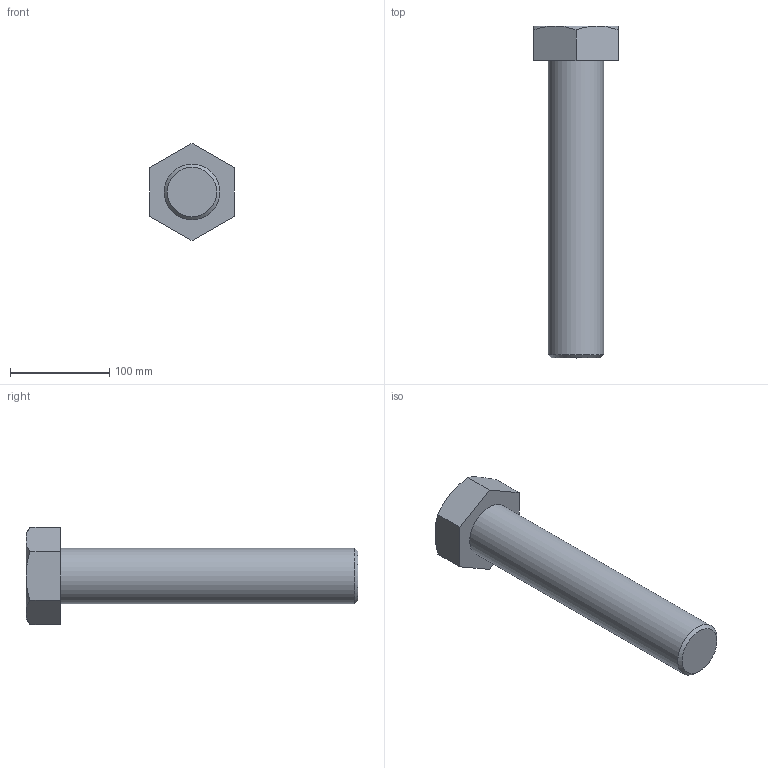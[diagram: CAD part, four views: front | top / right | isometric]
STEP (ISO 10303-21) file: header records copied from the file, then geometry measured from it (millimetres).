
FILE_DESCRIPTION(/* description */ (''),/* implementation_level */ '2;1');
FILE_NAME(/* name */ 'C:\Users\unitec\Documents\Inventor\各種小物\JIS\JIS B 1180 六角ボルト 等級C\hbc56\M56x300.stp',/* time_stamp */ '2015-02-13T15:00:23+09:00',/* author */ ('unitec'),/* organization */ (''),/* preprocessor_version */ 'ST-DEVELOPER v15.2',/* originating_system */ 'Autodesk Inventor 2014',/* authorisation */ '');
FILE_SCHEMA (('AUTOMOTIVE_DESIGN { 1 0 10303 214 3 1 1 }'));
Length unit declared in the file: millimetre
Products named in the file (1): M56x300
Bounding box: 85 x 335 x 98.15 mm (x, y, z)
Volume: 956433.4 mm3; surface area: 74976.6 mm2
Topology: 1 solids, 1 shells, 17 faces, 35 edges, 21 vertices
Faces by surface type: plane 9, cone 7, cylinder 1
Full cylindrical faces by diameter (mm): 56 x1
Entity records: 441 total; most frequent: CARTESIAN_POINT 96, ORIENTED_EDGE 66, DIRECTION 66, EDGE_CURVE 33, AXIS2_PLACEMENT_3D 27, VERTEX_POINT 21, EDGE_LOOP 20, ADVANCED_FACE 17
